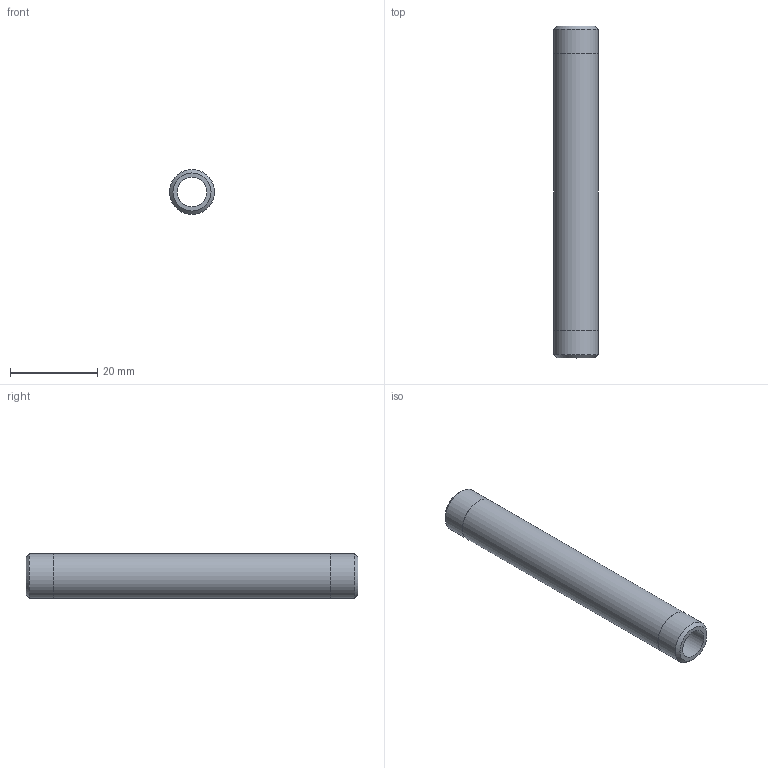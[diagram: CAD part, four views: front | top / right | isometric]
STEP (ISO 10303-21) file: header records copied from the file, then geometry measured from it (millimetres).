
FILE_DESCRIPTION(/* description */ (''),/* implementation_level */ '2;1');
FILE_NAME(/* name */ 'C:/Users/drich/Desktop/BPN18-3 v1.step',/* time_stamp */ '2020-01-03T14:48:19-06:00',/* author */ (''),/* organization */ (''),/* preprocessor_version */ 'ST-DEVELOPER v18',/* originating_system */ 'Autodesk Translation Framework v8.12.0.6',/* authorisation */ '');
FILE_SCHEMA (('AUTOMOTIVE_DESIGN { 1 0 10303 214 3 1 1 }'));
Length unit declared in the file: inch
Products named in the file (1): BPN18-3
Bounding box: 10.31 x 76.2 x 10.31 mm (x, y, z)
Volume: 3542.3 mm3; surface area: 4165.7 mm2
Topology: 1 solids, 1 shells, 10 faces, 24 edges, 18 vertices
Faces by surface type: cylinder 4, plane 4, cone 2
Full cylindrical faces by diameter (mm): 6.833 x1, 10.262 x2, 10.312 x1
Entity records: 360 total; most frequent: DIRECTION 64, CARTESIAN_POINT 53, ORIENTED_EDGE 48, AXIS2_PLACEMENT_3D 29, EDGE_CURVE 24, CIRCLE 18, VERTEX_POINT 18, EDGE_LOOP 14
